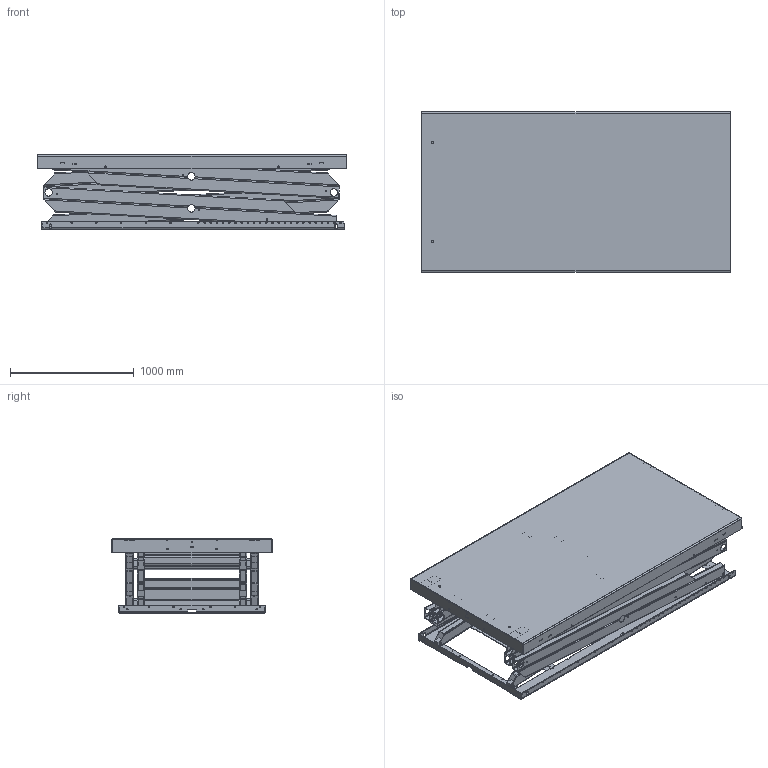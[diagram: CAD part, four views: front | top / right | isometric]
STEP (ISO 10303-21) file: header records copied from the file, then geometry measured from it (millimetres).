
FILE_DESCRIPTION(/* description */ ('Långsida'),/* implementation_level */ '2;1');
FILE_NAME(/* name */ '\\EDMOFILE01\Users$\JOHSO\Desktop\33670_Botten.stp',/* time_stamp */ '2015-07-02T13:59:09+02:00',/* author */ ('JOHSO'),/* organization */ (''),/* preprocessor_version */ 'ST-DEVELOPER v15.6',/* originating_system */ 'Autodesk Inventor 2015',/* authorisation */ '');
FILE_SCHEMA (('AUTOMOTIVE_DESIGN { 1 0 10303 214 3 1 1 }'));
Length unit declared in the file: millimetre
Products named in the file (29): 514610-5; 514601-2; 514610-1; 514601-4; 45259; 514615; 33678-1; 33678-2; 33678C; 44142C-950; 33673C; 33677-1; 33677-2; 33677; 44140C-768; 33674C; 45070-2045; 45070-2375; 33679; 33675; 44141C-768; 33676; 32097; 42773; 42858; 33672; 70025; 42509; 33670
Assembly tree (46 placements, depth 4):
  33670
    514615
      514610-5
      514601-2  x2
      514610-1
      514601-4
      45259  x2
    33673C
      33678C  x2
        33678-1
        33678-2
      44142C-950
    33674C
      33677  x2
        33677-1
        33677-2
      44140C-768  x2
    33675
      33679  x2
        45070-2045
        45070-2375
      44142C-950
    33676
      33677  x2
        33677-1
        33677-2
      44141C-768
      44140C-768
    33672
      32097
      42773  x2
      42858  x2
      45259  x2
    70025  x4
    42509  x2
Bounding box: 2500 x 1300 x 600 mm (x, y, z)
Volume: 83953886 mm3; surface area: 34832217 mm2
Topology: 42 solids, 42 shells, 1886 faces, 5480 edges, 3676 vertices
Faces by surface type: cylinder 956, plane 916, bspline 10, cone 4
Full cylindrical faces by diameter (mm): 7.3 x8, 7.4 x48, 8 x4, 10.2 x4, 10.5 x4, 12 x10, 13 x6, 14.2 x16, 15 x2, 19 x2, 22 x6, 28 x4, 28.1 x4, 34 x4, 60 x8, 70 x8
Entity records: 46863 total; most frequent: CARTESIAN_POINT 9697, DIRECTION 7684, ORIENTED_EDGE 7422, EDGE_CURVE 3711, AXIS2_PLACEMENT_3D 2666, VERTEX_POINT 2521, LINE 2352, VECTOR 2352
